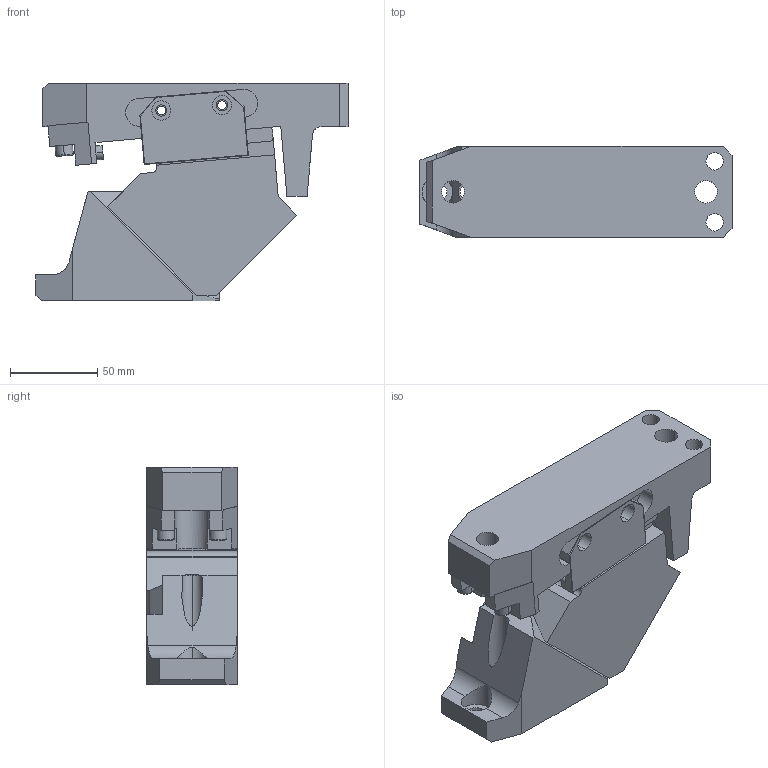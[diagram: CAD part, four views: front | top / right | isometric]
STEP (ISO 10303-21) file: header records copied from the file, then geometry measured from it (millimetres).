
FILE_DESCRIPTION (( 'STEP AP203' ), '1' );
FILE_NAME ('CLD052.45.step', '2014-05-05T08:34:40', ( '' ), ( '' ), 'SwSTEP 2.0', 'SolidWorks 2013', '' );
FILE_SCHEMA (( 'CONFIG_CONTROL_DESIGN' ));
Length unit declared in the file: millimetre
Products named in the file (4): CLD052.45; CLD05245-01 CAM BASE; CLD05245-02 CAM SLIDER; CLD05245-03 CAM DRIVER
Assembly tree (3 placements, depth 2):
  CLD052.45
    CLD05245-01 CAM BASE
    CLD05245-02 CAM SLIDER
    CLD05245-03 CAM DRIVER
Bounding box: 179 x 52 x 125 mm (x, y, z)
Volume: 677931.8 mm3; surface area: 116418.7 mm2
Topology: 3 solids, 7 shells, 360 faces, 931 edges, 591 vertices
Faces by surface type: plane 221, cylinder 112, cone 18, torus 9
Entity records: 11380 total; most frequent: CARTESIAN_POINT 2057, DIRECTION 1885, ORIENTED_EDGE 1842, EDGE_CURVE 921, AXIS2_PLACEMENT_3D 633, LINE 619, VECTOR 619, VERTEX_POINT 591
